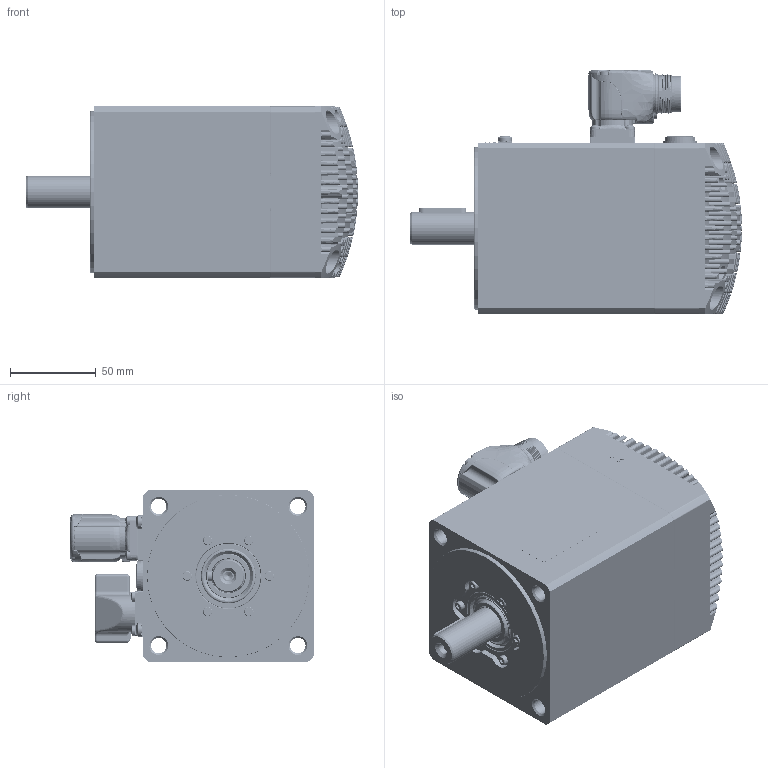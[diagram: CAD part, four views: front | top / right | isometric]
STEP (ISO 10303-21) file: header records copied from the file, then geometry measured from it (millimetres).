
FILE_DESCRIPTION((''),'2;1');
FILE_NAME('32190015650_ASM','2022-04-13T09:31:50',('gabrielec'),(''),'CREO PARAMETRIC BY PTC INC, 2021304','CREO PARAMETRIC BY PTC INC, 2021304','');
FILE_SCHEMA(('AP242_MANAGED_MODEL_BASED_3D_ENGINEERING_MIM_LF { 1 0 10303 442 1 1 4 }'));
Products named in the file (37): 52580N-0; 32149915564_ASM; 22320015067; 22320015067_ASM; 32050015011_ASM; 32060015506_ASM; 51941N-1; 32090015023_ASM; NRG_001; M3X16_GBT70-1; GB_T862_1; M4X8_GBT818_CU; 32159915174_ASM; 22160015160; MENTOR-1292_9013; CEMBRE_FD9; CEMBRE_2053M16N; 32150015177_ASM; PHOENIX-1605586; 33000015098_AF8_ASM; UNI7687_M3X8_INOX; CORPO_3; 33200303857_AF4_ASM; 31500303857_AF4_ASM; 50941N-0; UNI7687_M3X6_INOX; UNI5931_M3X6_INOX; 22210015021; 32150015176_ASM; UNI5931_M4X16; LIP_SEAL_TW05; 22250015024; 22250015127; 43500000229; 43500000050; L_6X6-28_UNI6604; 32190015650_ASM
Assembly tree (64 placements, depth 7):
  32190015650_ASM
    32159915174_ASM
      32149915564_ASM
        52580N-0
      32090015023_ASM
        32060015506_ASM
          32050015011_ASM
            22320015067_ASM
              22320015067
        51941N-1
      NRG_001  x6
      M3X16_GBT70-1  x6
      GB_T862_1  x2
      M4X8_GBT818_CU  x2
    32150015177_ASM
      22160015160
      MENTOR-1292_9013  x8
      CEMBRE_FD9
      CEMBRE_2053M16N
    33000015098_AF8_ASM
      PHOENIX-1605586
    UNI7687_M3X8_INOX  x4
    31500303857_AF4_ASM
      33200303857_AF4_ASM
        CORPO_3
    50941N-0  x2
    UNI7687_M3X6_INOX  x3
    UNI5931_M3X6_INOX
    32150015176_ASM
      22210015021
    UNI5931_M4X16  x4
    LIP_SEAL_TW05
    22250015024
    22250015127
    43500000229
    43500000050
    L_6X6-28_UNI6604
Bounding box: 194 x 142.41 x 100.8 mm (x, y, z)
Volume: 574876.7 mm3; surface area: 278323.2 mm2
Topology: 73 solids, 100 shells, 4543 faces, 11402 edges, 7223 vertices
Faces by surface type: plane 1576, cylinder 1071, cone 663, bspline 612, torus 356, sphere 243, revolution 11, extrusion 11
Entity records: 197178 total; most frequent: CARTESIAN_POINT 67754, ORIENTED_EDGE 20112, DIRECTION 18210, PRESENTATION_STYLE_ASSIGNMENT 10496, STYLED_ITEM 10137, EDGE_CURVE 10109, CURVE_STYLE 10065, AXIS2_PLACEMENT_3D 7054
